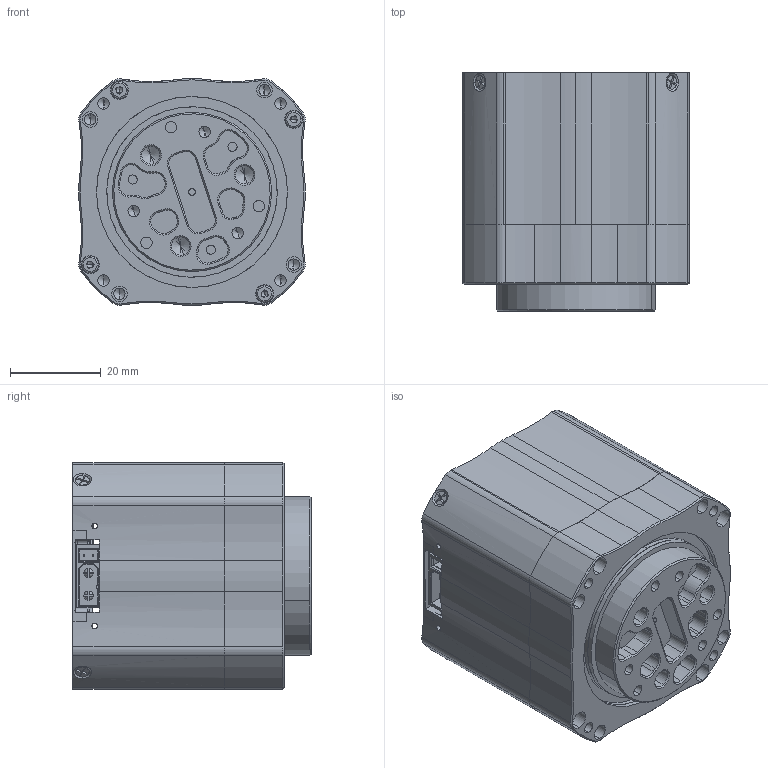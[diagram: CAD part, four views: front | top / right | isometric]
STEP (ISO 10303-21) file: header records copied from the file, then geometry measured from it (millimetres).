
FILE_DESCRIPTION (( 'STEP AP214' ), '1' );
FILE_NAME ('5036-02-JC耀倰.STEP', '2026-09-07T10:56:45', ( '' ), ( '' ), 'SwSTEP 2.0', 'SolidWorks 2024', '' );
FILE_SCHEMA (( 'AUTOMOTIVE_DESIGN' ));
Length unit declared in the file: millimetre
Products named in the file (12): M2.5-10-3.7杯头螺丝; 5047-编码器销-2.0; 5022-02-JC二级; 5036-02-外壳-1.1; m3-6-4杯头螺丝; 5036-02-JC模型; 5036-02-JC正装轴承座-无油封; 5036-02-2行星轮销; BNAT 355 35-46-5; m2-4-3十字沉头螺丝; 3D_双编-5047-V2.0.0418_2025-04-18; 5036-02-电机盖-1.1
Assembly tree (21 placements, depth 2):
  5036-02-JC模型
    5036-02-外壳-1.1
    3D_双编-5047-V2.0.0418_2025-04-18
    5036-02-电机盖-1.1
    5047-编码器销-2.0
    m3-6-4杯头螺丝  x3
    5036-02-2行星轮销  x3
    m2-4-3十字沉头螺丝  x4
    M2.5-10-3.7杯头螺丝  x4
    BNAT 355 35-46-5
    5036-02-JC正装轴承座-无油封
    5022-02-JC二级
Bounding box: 49.85 x 52.4 x 49.9 mm (x, y, z)
Volume: 49345.3 mm3; surface area: 49815 mm2
Topology: 23 solids, 23 shells, 2490 faces, 6541 edges, 4172 vertices
Faces by surface type: cylinder 1100, plane 876, cone 272, bspline 196, torus 30, sphere 16
Entity records: 74784 total; most frequent: CARTESIAN_POINT 15608, DIRECTION 12245, ORIENTED_EDGE 12090, EDGE_CURVE 6045, AXIS2_PLACEMENT_3D 4537, VERTEX_POINT 3928, LINE 3171, VECTOR 3171
